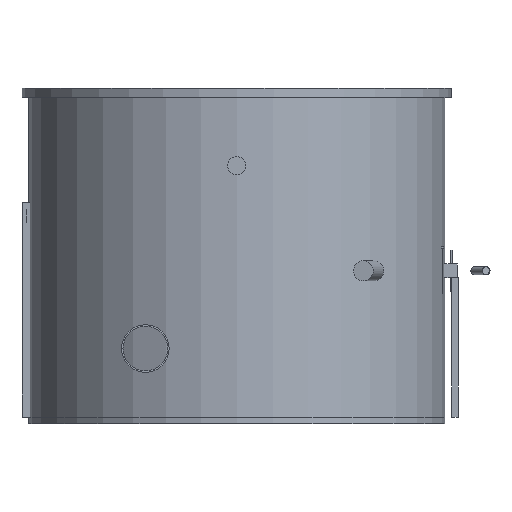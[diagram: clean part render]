
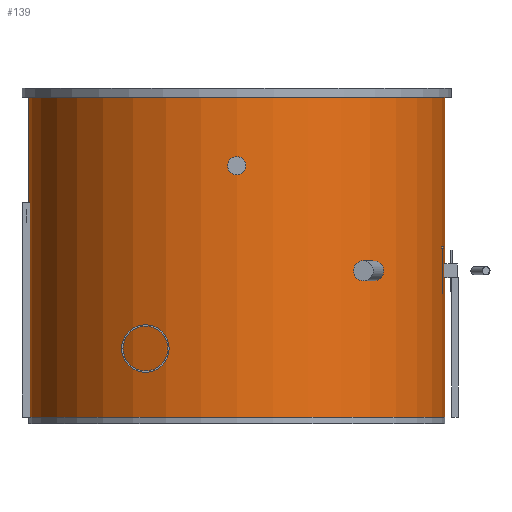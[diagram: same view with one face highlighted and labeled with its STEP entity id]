
A CAD part, front view. The second image highlights one B-rep face of the part: STEP entity #139.
In plain terms, the highlighted cylindrical face has radius 455 mm (diameter 910 mm), a full revolution.
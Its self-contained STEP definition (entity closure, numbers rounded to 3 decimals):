
#139 = ADVANCED_FACE('',(#140),#153,.T.);
#140 = FACE_BOUND('',#141,.T.);
#141 = EDGE_LOOP('',(#142,#176,#199,#226));
#142 = ORIENTED_EDGE('',*,*,#143,.F.);
#143 = EDGE_CURVE('',#144,#144,#146,.T.);
#144 = VERTEX_POINT('',#145);
#145 = CARTESIAN_POINT('',(455.,0.,300.));
#146 = SURFACE_CURVE('',#147,(#152,#164),.PCURVE_S1.);
#147 = CIRCLE('',#148,455.);
#148 = AXIS2_PLACEMENT_3D('',#149,#150,#151);
#149 = CARTESIAN_POINT('',(0.,0.,300.));
#150 = DIRECTION('',(0.,0.,1.));
#151 = DIRECTION('',(1.,0.,-0.));
#152 = PCURVE('',#153,#158);
#153 = CYLINDRICAL_SURFACE('',#154,455.);
#154 = AXIS2_PLACEMENT_3D('',#155,#156,#157);
#155 = CARTESIAN_POINT('',(0.,0.,-400.));
#156 = DIRECTION('',(0.,0.,1.));
#157 = DIRECTION('',(1.,0.,-0.));
#158 = DEFINITIONAL_REPRESENTATION('',(#159),#163);
#159 = LINE('',#160,#161);
#160 = CARTESIAN_POINT('',(0.,700.));
#161 = VECTOR('',#162,1.);
#162 = DIRECTION('',(1.,0.));
#163 = ( GEOMETRIC_REPRESENTATION_CONTEXT(2) 
PARAMETRIC_REPRESENTATION_CONTEXT() REPRESENTATION_CONTEXT('2D SPACE',''
  ) );
#164 = PCURVE('',#165,#170);
#165 = PLANE('',#166);
#166 = AXIS2_PLACEMENT_3D('',#167,#168,#169);
#167 = CARTESIAN_POINT('',(0.,0.,300.));
#168 = DIRECTION('',(0.,0.,1.));
#169 = DIRECTION('',(1.,0.,-0.));
#170 = DEFINITIONAL_REPRESENTATION('',(#171),#175);
#171 = CIRCLE('',#172,455.);
#172 = AXIS2_PLACEMENT_2D('',#173,#174);
#173 = CARTESIAN_POINT('',(0.,0.));
#174 = DIRECTION('',(1.,0.));
#175 = ( GEOMETRIC_REPRESENTATION_CONTEXT(2) 
PARAMETRIC_REPRESENTATION_CONTEXT() REPRESENTATION_CONTEXT('2D SPACE',''
  ) );
#176 = ORIENTED_EDGE('',*,*,#177,.F.);
#177 = EDGE_CURVE('',#178,#144,#180,.T.);
#178 = VERTEX_POINT('',#179);
#179 = CARTESIAN_POINT('',(455.,0.,-400.));
#180 = SEAM_CURVE('',#181,(#185,#192),.PCURVE_S1.);
#181 = LINE('',#182,#183);
#182 = CARTESIAN_POINT('',(455.,0.,-400.));
#183 = VECTOR('',#184,1.);
#184 = DIRECTION('',(0.,0.,1.));
#185 = PCURVE('',#153,#186);
#186 = DEFINITIONAL_REPRESENTATION('',(#187),#191);
#187 = LINE('',#188,#189);
#188 = CARTESIAN_POINT('',(6.283,-0.));
#189 = VECTOR('',#190,1.);
#190 = DIRECTION('',(0.,1.));
#191 = ( GEOMETRIC_REPRESENTATION_CONTEXT(2) 
PARAMETRIC_REPRESENTATION_CONTEXT() REPRESENTATION_CONTEXT('2D SPACE',''
  ) );
#192 = PCURVE('',#153,#193);
#193 = DEFINITIONAL_REPRESENTATION('',(#194),#198);
#194 = LINE('',#195,#196);
#195 = CARTESIAN_POINT('',(0.,-0.));
#196 = VECTOR('',#197,1.);
#197 = DIRECTION('',(0.,1.));
#198 = ( GEOMETRIC_REPRESENTATION_CONTEXT(2) 
PARAMETRIC_REPRESENTATION_CONTEXT() REPRESENTATION_CONTEXT('2D SPACE',''
  ) );
#199 = ORIENTED_EDGE('',*,*,#200,.T.);
#200 = EDGE_CURVE('',#178,#178,#201,.T.);
#201 = SURFACE_CURVE('',#202,(#207,#214),.PCURVE_S1.);
#202 = CIRCLE('',#203,455.);
#203 = AXIS2_PLACEMENT_3D('',#204,#205,#206);
#204 = CARTESIAN_POINT('',(0.,0.,-400.));
#205 = DIRECTION('',(0.,0.,1.));
#206 = DIRECTION('',(1.,0.,-0.));
#207 = PCURVE('',#153,#208);
#208 = DEFINITIONAL_REPRESENTATION('',(#209),#213);
#209 = LINE('',#210,#211);
#210 = CARTESIAN_POINT('',(0.,0.));
#211 = VECTOR('',#212,1.);
#212 = DIRECTION('',(1.,0.));
#213 = ( GEOMETRIC_REPRESENTATION_CONTEXT(2) 
PARAMETRIC_REPRESENTATION_CONTEXT() REPRESENTATION_CONTEXT('2D SPACE',''
  ) );
#214 = PCURVE('',#215,#220);
#215 = PLANE('',#216);
#216 = AXIS2_PLACEMENT_3D('',#217,#218,#219);
#217 = CARTESIAN_POINT('',(0.,0.,-400.));
#218 = DIRECTION('',(0.,0.,1.));
#219 = DIRECTION('',(1.,0.,-0.));
#220 = DEFINITIONAL_REPRESENTATION('',(#221),#225);
#221 = CIRCLE('',#222,455.);
#222 = AXIS2_PLACEMENT_2D('',#223,#224);
#223 = CARTESIAN_POINT('',(0.,0.));
#224 = DIRECTION('',(1.,0.));
#225 = ( GEOMETRIC_REPRESENTATION_CONTEXT(2) 
PARAMETRIC_REPRESENTATION_CONTEXT() REPRESENTATION_CONTEXT('2D SPACE',''
  ) );
#226 = ORIENTED_EDGE('',*,*,#177,.T.);
